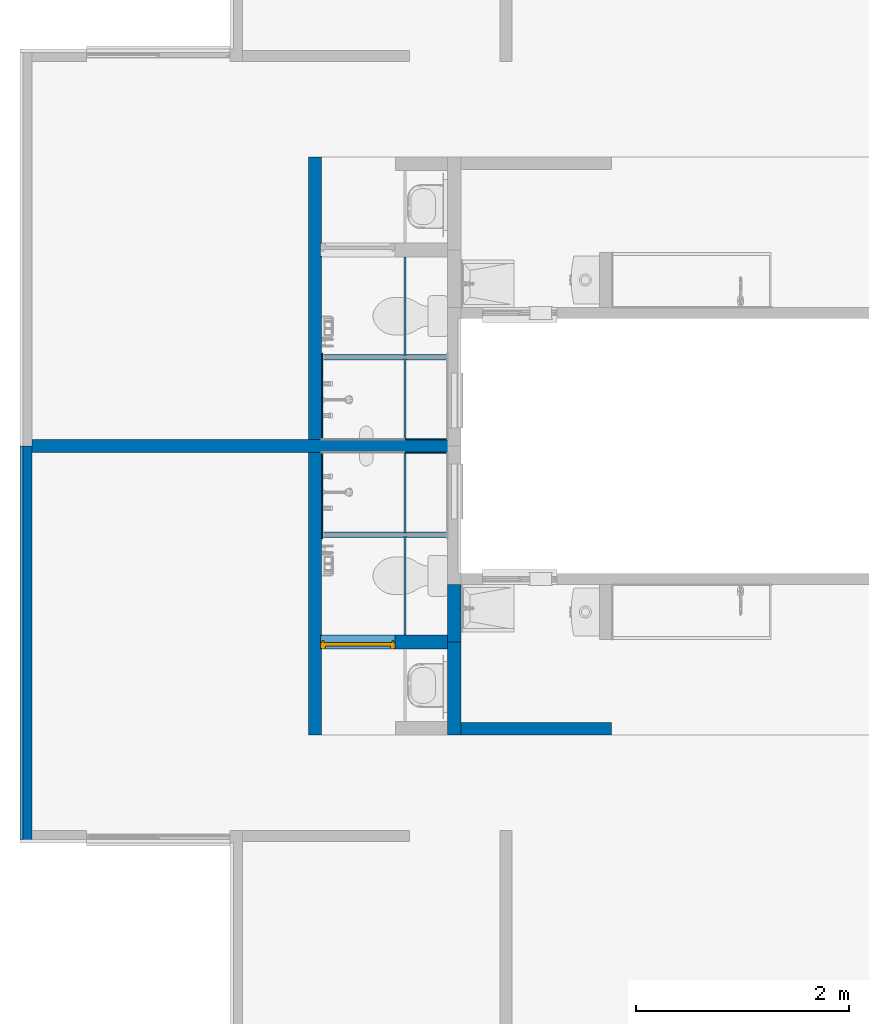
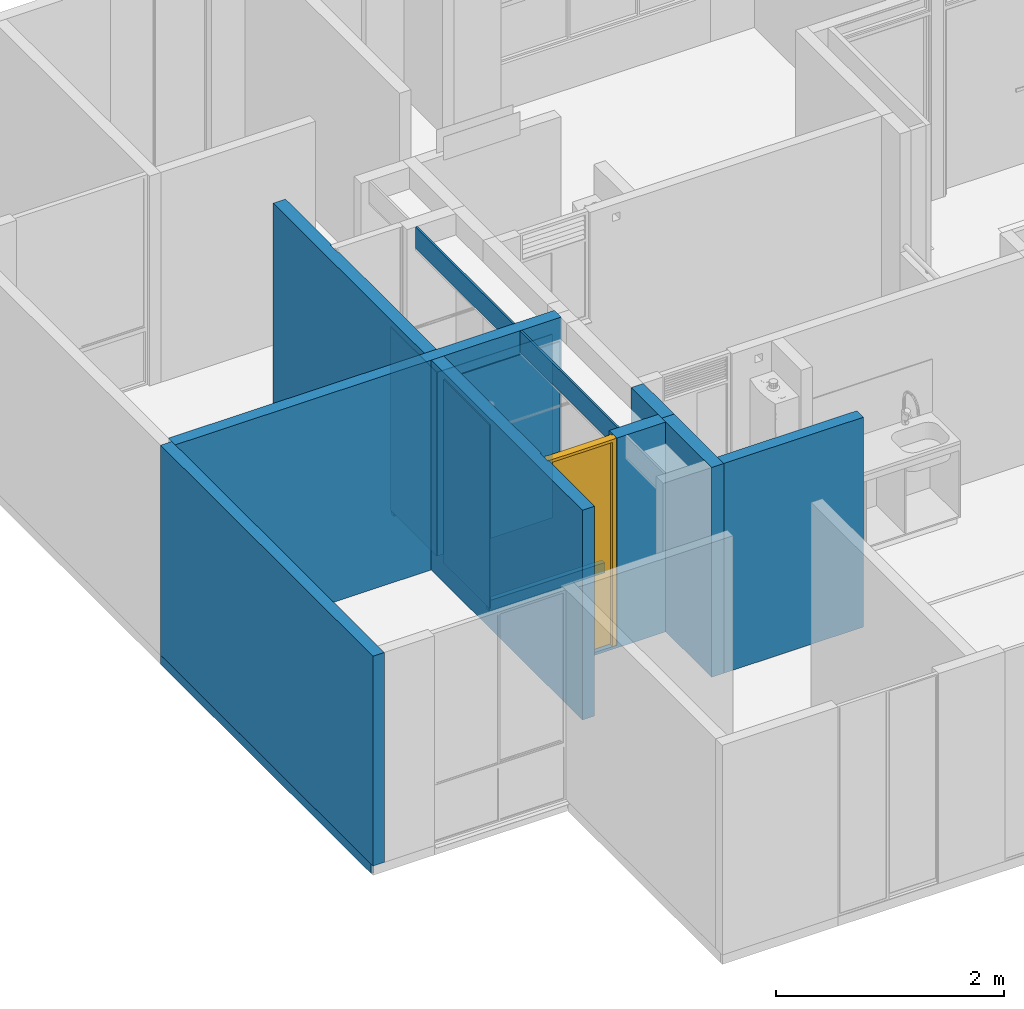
# One storey, part 7 of 48: 17 walls, 1 door, 3 openings.
"""IFC4 building model written with IfcOpenShell, lengths in metres."""

from ifc_helpers import new_model, entity, si_unit, converted_unit, derived_unit, direction, frame, origin, place, context, subcontext, project, spatial, indexed_curve, outline, extrude, polygons, source, transform, mapped, material, constituent, constituent_set, type_object, type_shapes, element, fill, save


model = new_model("IFC4")

# Units and contexts
model_context = context("Model", 3, precision=1e-05, world=origin(), true_north=direction((6.123031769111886e-17, 1.0)))
body_context = subcontext(model_context, "Body", "Model", "MODEL_VIEW")
ifc_project = project(units=[si_unit("LENGTHUNIT", "METRE"), si_unit("AREAUNIT", "SQUARE_METRE"), si_unit("VOLUMEUNIT", "CUBIC_METRE"), converted_unit("PLANEANGLEUNIT", "DEGREE", entity("IfcRatioMeasure", 0.017453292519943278), si_unit("PLANEANGLEUNIT", "RADIAN"), dimensions=[0, 0, 0, 0, 0, 0, 0]), si_unit("MASSUNIT", "GRAM", prefix="KILO"), derived_unit("MASSDENSITYUNIT", [(si_unit("MASSUNIT", "GRAM", prefix="KILO"), 1), (si_unit("LENGTHUNIT", "METRE"), -3)]), derived_unit("IONCONCENTRATIONUNIT", [(si_unit("MASSUNIT", "GRAM", prefix="KILO"), 1), (si_unit("LENGTHUNIT", "METRE"), -3)]), derived_unit("MOMENTOFINERTIAUNIT", [(si_unit("LENGTHUNIT", "METRE"), 4)]), si_unit("TIMEUNIT", "SECOND"), si_unit("FREQUENCYUNIT", "HERTZ"), si_unit("THERMODYNAMICTEMPERATUREUNIT", "DEGREE_CELSIUS"), derived_unit("THERMALTRANSMITTANCEUNIT", [(si_unit("MASSUNIT", "GRAM", prefix="KILO"), 1), (si_unit("THERMODYNAMICTEMPERATUREUNIT", "KELVIN"), -1), (si_unit("TIMEUNIT", "SECOND"), -3)]), derived_unit("THERMALCONDUCTANCEUNIT", [(si_unit("MASSUNIT", "GRAM", prefix="KILO"), 1), (si_unit("THERMODYNAMICTEMPERATUREUNIT", "KELVIN"), -1), (si_unit("TIMEUNIT", "SECOND"), -3), (si_unit("LENGTHUNIT", "METRE"), 1)]), derived_unit("VOLUMETRICFLOWRATEUNIT", [(si_unit("LENGTHUNIT", "METRE"), 3), (si_unit("TIMEUNIT", "SECOND"), -1)]), derived_unit("MASSFLOWRATEUNIT", [(si_unit("MASSUNIT", "GRAM", prefix="KILO"), 1), (si_unit("TIMEUNIT", "SECOND"), -1)]), derived_unit("ROTATIONALFREQUENCYUNIT", [(si_unit("TIMEUNIT", "SECOND"), -1)]), si_unit("ELECTRICCURRENTUNIT", "AMPERE"), si_unit("ELECTRICVOLTAGEUNIT", "VOLT"), si_unit("POWERUNIT", "WATT"), si_unit("FORCEUNIT", "NEWTON", prefix="KILO"), si_unit("ILLUMINANCEUNIT", "LUX"), si_unit("LUMINOUSFLUXUNIT", "LUMEN"), si_unit("LUMINOUSINTENSITYUNIT", "CANDELA"), derived_unit("USERDEFINED", [(si_unit("MASSUNIT", "GRAM", prefix="KILO"), -1), (si_unit("LENGTHUNIT", "METRE"), -2), (si_unit("TIMEUNIT", "SECOND"), 3), (si_unit("LUMINOUSFLUXUNIT", "LUMEN"), 1)]), derived_unit("USERDEFINED", [(si_unit("MASSUNIT", "GRAM", prefix="KILO"), 1), (si_unit("TIMEUNIT", "SECOND"), -3), (si_unit("LENGTHUNIT", "METRE"), 3), (si_unit("ELECTRICCURRENTUNIT", "AMPERE"), -2)]), derived_unit("SOUNDPOWERUNIT", [(si_unit("MASSUNIT", "GRAM", prefix="KILO"), 1), (si_unit("TIMEUNIT", "SECOND"), -3), (si_unit("LENGTHUNIT", "METRE"), 2)]), derived_unit("SOUNDPRESSUREUNIT", [(si_unit("MASSUNIT", "GRAM", prefix="KILO"), 1), (si_unit("LENGTHUNIT", "METRE"), -1), (si_unit("TIMEUNIT", "SECOND"), -2)]), derived_unit("LINEARVELOCITYUNIT", [(si_unit("LENGTHUNIT", "METRE"), 1), (si_unit("TIMEUNIT", "SECOND"), -1)]), si_unit("PRESSUREUNIT", "PASCAL"), derived_unit("USERDEFINED", [(si_unit("MASSUNIT", "GRAM", prefix="KILO"), 1), (si_unit("LENGTHUNIT", "METRE"), -2), (si_unit("TIMEUNIT", "SECOND"), -2)]), derived_unit("LINEARFORCEUNIT", [(si_unit("MASSUNIT", "GRAM", prefix="KILO"), 1), (si_unit("TIMEUNIT", "SECOND"), -2)]), derived_unit("PLANARFORCEUNIT", [(si_unit("MASSUNIT", "GRAM", prefix="KILO"), 1), (si_unit("LENGTHUNIT", "METRE"), -1), (si_unit("TIMEUNIT", "SECOND"), -2)]), derived_unit("SPECIFICHEATCAPACITYUNIT", [(si_unit("THERMODYNAMICTEMPERATUREUNIT", "KELVIN"), -1), (si_unit("LENGTHUNIT", "METRE"), 2), (si_unit("TIMEUNIT", "SECOND"), -2)]), derived_unit("HEATINGVALUEUNIT", [(si_unit("LENGTHUNIT", "METRE"), 2), (si_unit("TIMEUNIT", "SECOND"), -2)]), derived_unit("VAPORPERMEABILITYUNIT", [(si_unit("LENGTHUNIT", "METRE"), -1), (si_unit("TIMEUNIT", "SECOND"), 1)]), derived_unit("DYNAMICVISCOSITYUNIT", [(si_unit("MASSUNIT", "GRAM", prefix="KILO"), 1), (si_unit("TIMEUNIT", "SECOND"), -1), (si_unit("LENGTHUNIT", "METRE"), -1)]), derived_unit("THERMALEXPANSIONCOEFFICIENTUNIT", [(si_unit("THERMODYNAMICTEMPERATUREUNIT", "KELVIN"), -1)]), derived_unit("MODULUSOFELASTICITYUNIT", [(si_unit("MASSUNIT", "GRAM", prefix="KILO"), 1), (si_unit("LENGTHUNIT", "METRE"), -1), (si_unit("TIMEUNIT", "SECOND"), -2)]), derived_unit("ISOTHERMALMOISTURECAPACITYUNIT", [(si_unit("LENGTHUNIT", "METRE"), 3), (si_unit("MASSUNIT", "GRAM", prefix="KILO"), -1)]), derived_unit("MOISTUREDIFFUSIVITYUNIT", [(si_unit("TIMEUNIT", "SECOND"), -1), (si_unit("LENGTHUNIT", "METRE"), 2)])], contexts=[model_context])

# Site, building, storey
site_placement = place(None, origin())
site = spatial("IfcSite", under=ifc_project, at=site_placement, Name="Default", CompositionType="ELEMENT")
building_placement = place(site_placement, origin())
building = spatial("IfcBuilding", under=site, at=building_placement, CompositionType="ELEMENT")
storey_placement = place(building_placement, frame((0.0, 0.0, 9.40000000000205)))
storey = spatial("IfcBuildingStorey", under=building, at=storey_placement, Name="Nivel 5", CompositionType="ELEMENT", Elevation=9.40000000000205)

# Walls
ifc_material_1 = material(Name="Concreto (Aire)", Category="Materials")
wall_type_1 = type_object("IfcWallType", Name="Basic Wall:B2010 - 0.12m - Muro interior en concreto", PredefinedType="STANDARD")
wall_1_placement = place(storey_placement, frame((0.057499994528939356, -6.425000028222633, 0.0)))
element("IfcWall", 1, at=wall_1_placement, inside=storey, type_object=wall_type_1, material=ifc_material_1, Name="Basic Wall:B2010 - 0.12m - Muro interior en concreto", ObjectType="Basic Wall:B2010 - 0.12m - Muro interior en concreto", PredefinedType="NOTDEFINED", context=body_context, shape_type="SweptSolid", body=[
    extrude(outline(indexed_curve([(3.915, 0.06000000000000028), (-2.183027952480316e-18, 0.060000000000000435), (2.183027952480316e-18, -0.060000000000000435), (3.915, -0.06000000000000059), (3.915, 0.06000000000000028)], self_intersect=False)), origin(), (0.0, 0.0, 1.0), 2.2500000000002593),
])
ifc_material_2 = material(Name="Ladrillo claro (Aire)", Category="Materials")
wall_type_2 = type_object("IfcWallType", Name="Basic Wall:B2010 - 0.115m - Muro exterior en mampostería - Ladrillo", PredefinedType="STANDARD")
wall_2_placement = place(storey_placement, frame((0.0, -10.15500002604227, 0.0), z_axis=(0.0, 0.0, 1.0), x_axis=(0.0, 1.0, 0.0)))
element("IfcWall", 2, at=wall_2_placement, inside=storey, type_object=wall_type_2, material=ifc_material_2, Name="Basic Wall:B2010 - 0.115m - Muro exterior en mampostería - Ladrillo", ObjectType="Basic Wall:B2010 - 0.115m - Muro exterior en mampostería - Ladrillo", PredefinedType="NOTDEFINED", context=body_context, shape_type="SweptSolid", body=[
    extrude(outline(indexed_curve([(3.7299999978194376, 0.0575), (-4.594741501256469e-16, 0.0575), (4.594741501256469e-16, -0.0575), (3.7299999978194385, -0.0575), (3.7299999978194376, 0.0575)], self_intersect=False)), origin(), (0.0, 0.0, 1.0), 2.25000000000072),
])
wall_type_3 = type_object("IfcWallType", Name="Basic Wall:B2010 - 0.115m - Muro interior en mampostería - Ladrillo", PredefinedType="STANDARD")
wall_3_placement = place(storey_placement, frame((4.087499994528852, -9.082499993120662, 0.0)))
element("IfcWall", 3, at=wall_3_placement, inside=storey, type_object=wall_type_3, material=ifc_material_2, Name="Basic Wall:B2010 - 0.115m - Muro interior en mampostería - Ladrillo", ObjectType="Basic Wall:B2010 - 0.115m - Muro interior en mampostería - Ladrillo", PredefinedType="NOTDEFINED", context=body_context, shape_type="SweptSolid", body=[
    extrude(outline(indexed_curve([(1.414999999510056, 0.05749999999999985), (-1.7283953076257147e-16, 0.057499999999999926), (1.7283953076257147e-16, -0.057499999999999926), (1.4149999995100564, -0.0575), (1.414999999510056, 0.05749999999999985)], self_intersect=False)), origin(), (0.0, 0.0, 1.0), 2.2499999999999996),
])

# Wall, opening
ifc_material_3 = material(Name="Pañete", Category="Materials")
ifc_constituent_1 = constituent(ifc_material_3, Name="Pañete", Category="Materials")
ifc_constituent_2 = constituent(ifc_material_2, Name="Ladrillo claro (Aire)", Category="Materials")
ifc_constituent_set_1 = constituent_set(constituents=[ifc_constituent_1, ifc_constituent_2], Name="Basic Wall:B2010 - 0.115m - Muro interior en mampostería - Ladrillo + Pañete")
wall_type_4 = type_object("IfcWallType", Name="Basic Wall:B2010 - 0.115m - Muro interior en mampostería - Ladrillo + Pañete", PredefinedType="STANDARD", material=ifc_constituent_set_1)
wall_4_placement = place(storey_placement, frame((2.7150010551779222, -3.7100000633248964, 0.0), z_axis=(0.0, 0.0, 1.0), x_axis=(0.0, -1.0, 0.0)))
wall_4 = element("IfcWall", 4, at=wall_4_placement, inside=storey, type_object=wall_type_4, material=ifc_constituent_set_1, Name="Basic Wall:B2010 - 0.115m - Muro interior en mampostería - Ladrillo + Pañete", ObjectType="Basic Wall:B2010 - 0.115m - Muro interior en mampostería - Ladrillo + Pañete", PredefinedType="NOTDEFINED", context=body_context, shape_type="SweptSolid", body=[
    extrude(outline(indexed_curve([(-1.1325000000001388, -1.0999999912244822), (1.1174999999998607, -1.0999999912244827), (1.1175000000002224, -0.294999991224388), (-1.1024999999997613, -0.29499999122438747), (-1.1024999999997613, -0.15999999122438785), (1.1174999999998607, -0.1599999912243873), (1.1174999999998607, 1.5549999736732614), (-1.1325000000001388, 1.5549999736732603), (-1.1325000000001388, -1.0999999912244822)], self_intersect=False)), frame((1.0999999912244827, 0.0524999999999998, 1.13250000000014), z_axis=(0.0, 1.0, 0.0), x_axis=(0.0, 0.0, 1.0)), (0.0, 0.0, 1.0), 0.009999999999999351),
    extrude(outline(indexed_curve([(-0.05750000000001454, -1.3274999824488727), (0.05749999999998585, -1.3274999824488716), (0.05750000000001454, 1.327499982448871), (-0.057499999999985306, 1.3274999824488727), (-0.05750000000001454, -1.3274999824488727)], self_intersect=False)), frame((1.3274999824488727, -0.005000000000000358, 0.0), z_axis=(0.0, 0.0, 1.0), x_axis=(0.0, 1.0, 0.0)), (0.0, 0.0, 1.0), 2.2499999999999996),
])
opening_1_placement = place(wall_4_placement, origin())
element("IfcOpeningElement", 5, at=opening_1_placement, cuts=wall_4, Name="Basic Wall:B2010 - 0.115m - Muro interior en mampostería - Ladrillo + Pañete", PredefinedType="OPENING", context=body_context, shape_type="SweptSolid", body=[
    extrude(outline(indexed_curve([(-0.06749999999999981, -1.1099999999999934), (0.06750000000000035, -1.1099999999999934), (0.06750000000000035, 1.1099999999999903), (-0.06749999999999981, 1.1099999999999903), (-0.06749999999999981, -1.1099999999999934)], self_intersect=False)), frame((0.8725000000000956, 0.05249999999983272, 1.1400000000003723), z_axis=(0.0, 1.0, 0.0), x_axis=(-1.0, 0.0, 0.0)), (0.0, 0.0, 1.0), 0.7000000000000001),
])

wall_5_placement = place(storey_placement, frame((2.715001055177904, -9.139999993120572, 0.0), z_axis=(0.0, 0.0, 1.0), x_axis=(0.0, 1.0, 0.0)))
wall_5 = element("IfcWall", 6, at=wall_5_placement, inside=storey, type_object=wall_type_4, material=ifc_constituent_set_1, Name="Basic Wall:B2010 - 0.115m - Muro interior en mampostería - Ladrillo + Pañete", ObjectType="Basic Wall:B2010 - 0.115m - Muro interior en mampostería - Ladrillo + Pañete", PredefinedType="NOTDEFINED", context=body_context, shape_type="SweptSolid", body=[
    extrude(outline(indexed_curve([(-1.1325000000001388, -1.5549999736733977), (1.1174999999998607, -1.5549999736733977), (1.1175000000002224, 0.1599999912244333), (-1.1024999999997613, 0.15999999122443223), (-1.1024999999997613, 0.29499999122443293), (1.1174999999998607, 0.2949999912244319), (1.1174999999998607, 1.0999999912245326), (-1.1325000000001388, 1.0999999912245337), (-1.1325000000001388, -1.5549999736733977)], self_intersect=False)), frame((1.0999999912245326, -0.05249999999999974, 1.13250000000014), z_axis=(0.0, -1.0, 0.0), x_axis=(0.0, 0.0, 1.0)), (0.0, 0.0, 1.0), 0.009999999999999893),
    extrude(outline(indexed_curve([(-0.05750000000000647, -1.3274999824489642), (0.057499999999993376, -1.3274999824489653), (0.05750000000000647, 1.3274999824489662), (-0.057499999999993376, 1.3274999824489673), (-0.05750000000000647, -1.3274999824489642)], self_intersect=False)), frame((1.3274999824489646, 0.004999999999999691, 0.0), z_axis=(0.0, 0.0, 1.0), x_axis=(0.0, -1.0, 0.0)), (0.0, 0.0, 1.0), 2.2499999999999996),
])
opening_2_placement = place(wall_5_placement, origin())
element("IfcOpeningElement", 7, at=opening_2_placement, cuts=wall_5, Name="Basic Wall:B2010 - 0.115m - Muro interior en mampostería - Ladrillo + Pañete", PredefinedType="OPENING", context=body_context, shape_type="SweptSolid", body=[
    extrude(outline(indexed_curve([(-0.06749999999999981, -1.1099999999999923), (0.06749999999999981, -1.1099999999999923), (0.06749999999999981, 1.1099999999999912), (-0.06749999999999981, 1.1099999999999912), (-0.06749999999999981, -1.1099999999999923)], self_intersect=False)), frame((0.8725000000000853, -0.7524999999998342, 1.14000000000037), z_axis=(0.0, 1.0, 0.0), x_axis=(1.0, 0.0, 0.0)), (0.0, 0.0, 1.0), 0.7000000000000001),
])

# Wall, opening, door
ifc_constituent_3 = constituent(ifc_material_3, Name="Pañete", Category="Materials")
ifc_material_4 = material(Name="LADRILLO CLARO", Category="Materials")
ifc_constituent_4 = constituent(ifc_material_4, Name="LADRILLO CLARO", Category="Materials")
ifc_constituent_5 = constituent(ifc_material_3, Name="Pañete (2)", Category="Materials")
ifc_constituent_set_2 = constituent_set(constituents=[ifc_constituent_3, ifc_constituent_4, ifc_constituent_5], Name="Basic Wall:B2010 - 0.115m - MI  mampostería no estructural - Pañete + Ladrillo + Pañete")
wall_type_5 = type_object("IfcWallType", Name="Basic Wall:B2010 - 0.115m - MI  mampostería no estructural - Pañete + Ladrillo + Pañete", PredefinedType="STANDARD", material=ifc_constituent_set_2)
wall_6_placement = place(storey_placement, frame((3.9624999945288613, -8.26749999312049, 0.0), z_axis=(0.0, 0.0, 1.0), x_axis=(-1.0, 0.0, 0.0)))
wall_6 = element("IfcWall", 8, at=wall_6_placement, inside=storey, type_object=wall_type_5, material=ifc_constituent_set_2, Name="Basic Wall:B2010 - 0.115m - MI  mampostería no estructural - Pañete + Ladrillo + Pañete", ObjectType="Basic Wall:B2010 - 0.115m - MI  mampostería no estructural - Pañete + Ladrillo + Pañete", PredefinedType="NOTDEFINED", context=body_context, shape_type="SweptSolid", body=[
    extrude(outline(indexed_curve([(-0.7600000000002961, -0.6249996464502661), (-0.7299999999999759, -0.6249996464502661), (-0.7299999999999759, 0.06500035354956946), (1.4900000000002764, 0.06500035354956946), (1.4900000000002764, 0.559999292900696), (-0.7600000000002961, 0.5599992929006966), (-0.7600000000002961, -0.6249996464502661)], self_intersect=False)), frame((0.5599992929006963, -0.057499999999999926, 0.760000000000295), z_axis=(0.0, -1.0, 0.0), x_axis=(0.0, 0.0, 1.0)), (0.0, 0.0, 1.0), 0.009999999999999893),
    extrude(outline(indexed_curve([(-1.1325000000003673, -0.6649994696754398), (-1.102500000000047, -0.6649994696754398), (-1.102500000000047, 0.02500053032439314), (1.117500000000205, 0.02500053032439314), (1.117500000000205, 0.10999946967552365), (1.117500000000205, 0.12999946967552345), (1.117500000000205, 0.5199994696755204), (-1.1325000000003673, 0.5199994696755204), (-1.1325000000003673, -0.6649994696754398)], self_intersect=False)), frame((0.5199994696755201, 0.06749999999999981, 1.1325000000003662), z_axis=(0.0, -1.0, 0.0), x_axis=(0.0, 0.0, 1.0)), (0.0, 0.0, 1.0), 0.009999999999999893),
    extrude(outline(indexed_curve([(-0.7600000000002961, -0.6316663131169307), (-0.7299999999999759, -0.6316663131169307), (-0.7299999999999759, 0.06833368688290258), (1.4900000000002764, 0.06833368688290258), (1.4900000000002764, 0.5633326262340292), (-0.7600000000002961, 0.5633326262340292), (-0.7600000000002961, -0.6316663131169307)], self_intersect=False)), frame((0.5633326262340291, 0.057499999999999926, 0.760000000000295), z_axis=(0.0, -1.0, 0.0), x_axis=(0.0, 0.0, 1.0)), (0.0, 0.0, 1.0), 0.11499999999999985),
])
opening_3_placement = place(wall_6_placement, frame((1.1949989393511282, 0.06749999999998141, 0.029999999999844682)))
opening_3 = element("IfcOpeningElement", 9, at=opening_3_placement, cuts=wall_6, Name="C1030 - Puerta batiente - Madera+Aluminio:C1030 - 0.70 x 2.22 - Puerta batiente - Madera+ Metal:1", PredefinedType="OPENING", context=body_context, shape_type="SweptSolid", body=[
    extrude(outline(indexed_curve([(1.438182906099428e-16, 0.7000000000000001), (1.438182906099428e-16, 0.0), (2.219999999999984, 0.0), (2.2199999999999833, 0.7000000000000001), (1.438182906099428e-16, 0.7000000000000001)], self_intersect=False)), frame((0.0, 0.0, 0.0), z_axis=(0.0, -1.0, 0.0), x_axis=(0.0, 0.0, 1.0)), (0.0, 0.0, 1.0), 0.13499999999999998),
])
ifc_material_5 = material(Name="<Unnamed>")
door_type = type_object("IfcDoorType", Name="C1030 - Puerta batiente - Madera+Aluminio:C1030 - 0.70 x 2.22 - Puerta batiente - Madera+ Metal", OperationType="SINGLE_SWING_LEFT", PredefinedType="DOOR", material=ifc_material_5)
shared_shape = source(origin(), body_context, "Body", "Tessellation", [
    polygons([(0.6699999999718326, 0.06499999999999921, 0.009880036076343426), (0.6699999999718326, 0.0324999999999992, 0.009880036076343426), (0.030000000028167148, 0.0324999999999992, 0.009880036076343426), (0.030000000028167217, 0.06499999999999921, 0.009880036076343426), (0.6699999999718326, 0.06499999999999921, 2.2050000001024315), (0.6699999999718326, 0.0324999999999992, 2.2050000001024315), (0.030000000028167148, 0.0324999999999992, 2.2050000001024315), (0.030000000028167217, 0.06499999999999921, 2.2050000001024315)], [[[1, 2, 3, 4]], [[5, 6, 2, 1]], [[6, 7, 3, 2]], [[7, 8, 4, 3]], [[8, 5, 1, 4]], [[5, 8, 7, 6]]], closed=True),
    polygons([(0.6849999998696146, 0.0649999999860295, 0.0), (0.7, 0.0649999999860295, 0.0), (0.7, 0.0074999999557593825, 0.0), (0.6849999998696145, 0.007499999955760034, 0.0), (0.6849999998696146, -5.075939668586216e-17, 0.0), (0.6549999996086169, -1.6919798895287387e-17, 0.0), (0.6549999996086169, 0.04000000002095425, 0.0), (0.6699999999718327, 0.04000000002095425, 0.0), (0.6699999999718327, 0.07999999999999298, 0.0), (0.6849999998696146, 0.07999999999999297, 0.0), (0.7, 0.0074999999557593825, 2.2199999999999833), (0.6849999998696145, 0.007499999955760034, 2.2199999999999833), (0.6849999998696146, 0.0649999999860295, 2.2199999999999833), (0.7, 0.0649999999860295, 2.2199999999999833), (0.015000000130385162, 0.06499999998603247, 0.0), (0.015000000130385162, 0.07999999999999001, 0.0), (0.030000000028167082, 0.07999999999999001, 0.0), (0.030000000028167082, 0.04000000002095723, 0.0), (0.04500000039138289, 0.04000000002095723, 0.0), (0.04500000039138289, 0.0, 0.0), (0.01500000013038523, 0.0, 0.0), (0.015000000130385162, 0.007499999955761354, 0.0), (0.0, 0.007499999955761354, 0.0), (0.0, 0.06499999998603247, 0.0), (0.0, 0.06499999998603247, 2.2199999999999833), (0.015000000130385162, 0.06499999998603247, 2.2199999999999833), (0.015000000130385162, 0.007499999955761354, 2.2199999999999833), (0.0, 0.007499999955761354, 2.2199999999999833), (0.04500000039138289, 0.04000000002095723, 2.2050000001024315), (0.04500000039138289, 0.03250000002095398, 2.2050000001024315), (0.04500000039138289, 0.03250000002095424, 2.189999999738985), (0.04500000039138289, 0.0, 2.189999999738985), (0.6549999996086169, -1.6919798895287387e-17, 2.189999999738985), (0.6549999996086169, 0.032500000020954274, 2.189999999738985), (0.6549999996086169, 0.03250000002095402, 2.2050000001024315), (0.6549999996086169, 0.04000000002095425, 2.2050000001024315), (0.030000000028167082, 0.07999999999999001, 2.2199999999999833), (0.030000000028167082, 0.07249999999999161, 2.2199999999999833), (0.030000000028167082, 0.07249999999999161, 2.2050000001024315), (0.030000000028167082, 0.04000000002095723, 2.2050000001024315), (0.6699999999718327, 0.04000000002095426, 2.2050000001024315), (0.6699999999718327, 0.07249999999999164, 2.2050000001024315), (0.6699999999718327, 0.07249999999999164, 2.2199999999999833), (0.6699999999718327, 0.07999999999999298, 2.2199999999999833), (0.015000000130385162, 0.07999999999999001, 2.2199999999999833), (0.6849999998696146, -5.075939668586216e-17, 2.2199999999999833), (0.01500000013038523, 0.0, 2.2199999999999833), (0.6849999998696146, 0.07999999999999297, 2.2199999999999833)], [[[1, 2, 3, 4, 5, 6, 7, 8, 9, 10]], [[11, 12, 4, 3]], [[13, 14, 2, 1]], [[15, 16, 17, 18, 19, 20, 21, 22, 23, 24]], [[25, 26, 15, 24]], [[27, 28, 23, 22]], [[20, 19, 29, 30, 31, 32]], [[7, 6, 33, 34, 35, 36]], [[18, 17, 37, 38, 39, 40]], [[9, 8, 41, 42, 43, 44]], [[28, 25, 24, 23]], [[14, 11, 3, 2]], [[26, 45, 16, 15]], [[45, 37, 17, 16]], [[19, 18, 40, 29]], [[21, 20, 32, 33, 6, 5, 46, 47]], [[47, 27, 22, 21]], [[12, 46, 5, 4]], [[48, 13, 1, 10]], [[26, 25, 28, 27, 47, 46, 12, 11, 14, 13, 48, 44, 43, 38, 37, 45]], [[39, 42, 41, 36, 35, 30, 29, 40]], [[33, 32, 31, 34]], [[8, 7, 36, 41]], [[44, 48, 10, 9]], [[34, 31, 30, 35]], [[42, 39, 38, 43]]], closed=True),
])
type_shapes(door_type, [shared_shape])
door_placement = place(opening_3_placement, frame((0.0, 0.0, 0.0), z_axis=(0.0, 0.0, 1.0), x_axis=(-1.0, 0.0, 0.0)))
door = element("IfcDoor", 10, at=door_placement, inside=storey, type_object=door_type, material=ifc_material_5, Name="C1030 - Puerta batiente - Madera+Aluminio:C1030 - 0.70 x 2.22 - Puerta batiente - Madera+ Metal", ObjectType="C1030 - Puerta batiente - Madera+Aluminio:C1030 - 0.70 x 2.22 - Puerta batiente - Madera+ Metal", OperationType="NOTDEFINED", OverallHeight=2.2199999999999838, OverallWidth=0.7000000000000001, PredefinedType="DOOR", context=body_context, shape_type="MappedRepresentation", body=[
    mapped(shared_shape, transform((0.0, 0.0, 0.0), scale=1.0)),
])
fill(opening_3, door)

# Walls
ifc_material_6 = material(Name="Pañete, estuco y pintura", Category="Materials")
ifc_constituent_6 = constituent(ifc_material_6, Name="Pañete, estuco y pintura", Category="Materials")
ifc_constituent_7 = constituent(ifc_material_2, Name="Ladrillo claro (Aire)", Category="Materials")
ifc_constituent_set_3 = constituent_set(constituents=[ifc_constituent_6, ifc_constituent_7], Name="Basic Wall:B2010 - 0.115m - Muro interior en mampostería - Ladrillo + Pañete+ estuco+ pintura")
wall_type_6 = type_object("IfcWallType", Name="Basic Wall:B2010 - 0.115m - Muro interior en mampostería - Ladrillo + Pañete+ estuco+ pintura", PredefinedType="STANDARD", material=ifc_constituent_set_3)
wall_7_placement = place(storey_placement, frame((4.024999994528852, -9.13999999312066, 0.0), z_axis=(0.0, 0.0, 1.0), x_axis=(0.0, 1.0, 0.0)))
element("IfcWall", 11, at=wall_7_placement, inside=storey, type_object=wall_type_6, material=ifc_constituent_set_3, Name="Basic Wall:B2010 - 0.115m - Muro interior en mampostería - Ladrillo + Pañete+ estuco+ pintura", ObjectType="Basic Wall:B2010 - 0.115m - Muro interior en mampostería - Ladrillo + Pañete+ estuco+ pintura", PredefinedType="NOTDEFINED", context=body_context, shape_type="SweptSolid", body=[
    extrude(outline(indexed_curve([(-0.3591666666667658, -0.003333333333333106), (0.32083333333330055, -0.0033333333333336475), (0.44583333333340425, -0.003333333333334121), (0.4458333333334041, 0.006666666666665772), (-0.4266666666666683, 0.006666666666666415), (-0.42666666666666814, -0.0033333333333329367), (-0.3591666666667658, -0.003333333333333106)], self_intersect=False)), frame((0.44583333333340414, 0.059166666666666, 0.0), z_axis=(0.0, 0.0, 1.0), x_axis=(-1.0, 0.0, 0.0)), (0.0, 0.0, 1.0), 2.250000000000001),
    extrude(outline(indexed_curve([(-0.25700000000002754, -0.046000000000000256), (0.5005000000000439, -0.046000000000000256), (0.5005000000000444, 0.06900000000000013), (-0.372000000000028, 0.0690000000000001), (-0.37200000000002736, -0.045999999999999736), (-0.25700000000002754, -0.046000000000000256)], self_intersect=False)), frame((0.37200000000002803, -0.01650000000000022, 0.0)), (0.0, 0.0, 1.0), 2.250000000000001),
])
wall_8_placement = place(storey_placement, frame((4.024999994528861, -8.267499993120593, 0.0), z_axis=(0.0, 0.0, 1.0), x_axis=(0.0, 1.0, 0.0)))
element("IfcWall", 12, at=wall_8_placement, inside=storey, type_object=wall_type_6, material=ifc_constituent_set_3, Name="Basic Wall:B2010 - 0.115m - Muro interior en mampostería - Ladrillo + Pañete+ estuco+ pintura", ObjectType="Basic Wall:B2010 - 0.115m - Muro interior en mampostería - Ladrillo + Pañete+ estuco+ pintura", PredefinedType="NOTDEFINED", context=body_context, shape_type="SweptSolid", body=[
    extrude(outline(indexed_curve([(0.16280569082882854, -0.004000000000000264), (0.23030569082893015, -0.004000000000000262), (0.23030569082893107, 0.0059999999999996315), (-0.3117085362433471, 0.00599999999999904), (-0.31170853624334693, -0.004000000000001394), (0.16280569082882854, -0.004000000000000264)], self_intersect=False)), frame((0.23030569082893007, 0.058499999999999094, 0.0), z_axis=(0.0, 0.0, 1.0), x_axis=(-1.0, 0.0, 0.0)), (0.0, 0.0, 1.0), 2.250000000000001),
    extrude(outline(indexed_curve([(-0.12467143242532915, -0.03833333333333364), (-0.0906714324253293, -0.03833333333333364), (0.32484282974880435, -0.03833333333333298), (0.3248428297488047, 0.07666666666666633), (-0.21717139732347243, 0.07666666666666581), (-0.21717139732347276, -0.03833333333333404), (-0.12467143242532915, -0.03833333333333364)], self_intersect=False)), frame((0.2171713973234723, -0.024166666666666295, 0.0)), (0.0, 0.0, 1.0), 2.250000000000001),
])
ifc_material_7 = material(Name="Ceramica 0.25m x 0.35m", Category="Materials")
wall_type_7 = type_object("IfcWallType", Name="Basic Wall:C2010 - 0.25 x 0.35 - Enchape cerámico", PredefinedType="STANDARD")
wall_9_placement = place(storey_placement, frame((2.7825010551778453, -6.365000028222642, 0.029999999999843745), z_axis=(0.0, 0.0, 1.0), x_axis=(0.0, 1.0, 0.0)))
element("IfcWall", 13, at=wall_9_placement, inside=storey, type_object=wall_type_7, material=ifc_material_7, Name="Basic Wall:C2010 - 0.25 x 0.35 - Enchape cerámico", ObjectType="Basic Wall:C2010 - 0.25 x 0.35 - Enchape cerámico", PredefinedType="NOTDEFINED", context=body_context, shape_type="SweptSolid", body=[
    extrude(outline(indexed_curve([(0.8099999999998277, 0.00500000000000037), (-3.269267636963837e-17, 0.004999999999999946), (3.269267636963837e-17, -0.004999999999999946), (0.8099999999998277, -0.004999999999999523), (0.8099999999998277, 0.00500000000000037)], self_intersect=False)), origin(), (0.0, 0.0, 1.0), 1.9700000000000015),
])
wall_10_placement = place(storey_placement, frame((2.787501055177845, -6.360000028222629, 0.029999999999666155)))
element("IfcWall", 14, at=wall_10_placement, inside=storey, type_object=wall_type_7, material=ifc_material_7, Name="Basic Wall:C2010 - 0.25 x 0.35 - Enchape cerámico", ObjectType="Basic Wall:C2010 - 0.25 x 0.35 - Enchape cerámico", PredefinedType="NOTDEFINED", context=body_context, shape_type="SweptSolid", body=[
    extrude(outline(indexed_curve([(1.1649989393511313, 0.004999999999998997), (-2.3810892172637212e-17, 0.004999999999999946), (2.3810892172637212e-17, -0.004999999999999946), (1.1649989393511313, -0.005000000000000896), (1.1649989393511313, 0.004999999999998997)], self_intersect=False)), origin(), (0.0, 0.0, 1.0), 1.9700000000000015),
])
wall_11_placement = place(storey_placement, frame((2.782501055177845, -6.485000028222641, 0.029999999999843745), z_axis=(0.0, 0.0, 1.0), x_axis=(0.0, -1.0, 0.0)))
element("IfcWall", 15, at=wall_11_placement, inside=storey, type_object=wall_type_7, material=ifc_material_7, Name="Basic Wall:C2010 - 0.25 x 0.35 - Enchape cerámico", ObjectType="Basic Wall:C2010 - 0.25 x 0.35 - Enchape cerámico", PredefinedType="NOTDEFINED", context=body_context, shape_type="SweptSolid", body=[
    extrude(outline(indexed_curve([(0.8100000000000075, 0.004999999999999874), (4.468811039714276e-19, 0.004999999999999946), (-4.468811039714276e-19, -0.004999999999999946), (0.8100000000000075, -0.005000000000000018), (0.8100000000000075, 0.004999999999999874)], self_intersect=False)), origin(), (0.0, 0.0, 1.0), 1.9700000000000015),
])
wall_12_placement = place(storey_placement, frame((2.7875010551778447, -6.490000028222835, 0.029999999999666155)))
element("IfcWall", 16, at=wall_12_placement, inside=storey, type_object=wall_type_7, material=ifc_material_7, Name="Basic Wall:C2010 - 0.25 x 0.35 - Enchape cerámico", ObjectType="Basic Wall:C2010 - 0.25 x 0.35 - Enchape cerámico", PredefinedType="NOTDEFINED", context=body_context, shape_type="SweptSolid", body=[
    extrude(outline(indexed_curve([(1.1649989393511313, 0.004999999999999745), (-8.43490309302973e-18, 0.004999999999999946), (8.43490309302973e-18, -0.004999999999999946), (1.1649989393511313, -0.0050000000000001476), (1.1649989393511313, 0.004999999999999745)], self_intersect=False)), origin(), (0.0, 0.0, 1.0), 1.9700000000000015),
])
ifc_material_8 = material(Name="0 muro divisorio", Category="Materials")
wall_type_8 = type_object("IfcWallType", Name="Basic Wall:B2010 - 0.05m - Poyo para duchas - Concreto", PredefinedType="STANDARD")
wall_13_placement = place(storey_placement, frame((2.777501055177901, -5.590000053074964, 0.0)))
element("IfcWall", 17, at=wall_13_placement, inside=storey, type_object=wall_type_8, material=ifc_material_8, Name="Basic Wall:B2010 - 0.05m - Poyo para duchas - Concreto", ObjectType="Basic Wall:B2010 - 0.05m - Poyo para duchas - Concreto", PredefinedType="NOTDEFINED", context=body_context, shape_type="SweptSolid", body=[
    extrude(outline(indexed_curve([(1.1749989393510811, 0.02499999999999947), (7.46625923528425e-17, 0.02499999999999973), (-7.46625923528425e-17, -0.02499999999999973), (1.1749989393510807, -0.024999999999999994), (1.1749989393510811, 0.02499999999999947)], self_intersect=False)), origin(), (0.0, 0.0, 1.0), 0.11000000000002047),
])
wall_14_placement = place(storey_placement, frame((2.777501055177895, -7.260000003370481, 0.0)))
element("IfcWall", 18, at=wall_14_placement, inside=storey, type_object=wall_type_8, material=ifc_material_8, Name="Basic Wall:B2010 - 0.05m - Poyo para duchas - Concreto", ObjectType="Basic Wall:B2010 - 0.05m - Poyo para duchas - Concreto", PredefinedType="NOTDEFINED", context=body_context, shape_type="SweptSolid", body=[
    extrude(outline(indexed_curve([(1.1749989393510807, 0.025000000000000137), (-7.772420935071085e-17, 0.02499999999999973), (7.772420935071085e-17, -0.02499999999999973), (1.1749989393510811, -0.024999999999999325), (1.1749989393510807, 0.025000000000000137)], self_intersect=False)), origin(), (0.0, 0.0, 1.0), 0.11000000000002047),
])
ifc_material_9 = material(Name="Plasterboard", Category="Materials")
wall_type_9 = type_object("IfcWallType", Name="Basic Wall:C1070 - 0.02m - Plafón - Drywall", PredefinedType="STANDARD")
wall_15_placement = place(storey_placement, frame((3.5624999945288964, -6.365000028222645, 2.019999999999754), z_axis=(0.0, 0.0, 1.0), x_axis=(0.0, 1.0, 0.0)))
element("IfcWall", 19, at=wall_15_placement, inside=storey, type_object=wall_type_9, material=ifc_material_9, Name="Basic Wall:C1070 - 0.02m - Plafón - Drywall", ObjectType="Basic Wall:C1070 - 0.02m - Plafón - Drywall", PredefinedType="NOTDEFINED", context=body_context, shape_type="SweptSolid", body=[
    extrude(outline(indexed_curve([(1.71499996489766, 0.00999999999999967), (7.706224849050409e-17, 0.009999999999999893), (-7.706224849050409e-17, -0.009999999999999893), (1.71499996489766, -0.010000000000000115), (1.71499996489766, 0.00999999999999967)], self_intersect=False)), origin(), (0.0, 0.0, 1.0), 0.23000000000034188),
])
wall_16_placement = place(storey_placement, frame((3.5624999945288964, -6.485000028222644, 2.019999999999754), z_axis=(0.0, 0.0, 1.0), x_axis=(0.0, -1.0, 0.0)))
element("IfcWall", 20, at=wall_16_placement, inside=storey, type_object=wall_type_9, material=ifc_material_9, Name="Basic Wall:C1070 - 0.02m - Plafón - Drywall", ObjectType="Basic Wall:C1070 - 0.02m - Plafón - Drywall", PredefinedType="NOTDEFINED", context=body_context, shape_type="SweptSolid", body=[
    extrude(outline(indexed_curve([(1.7149999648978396, 0.009999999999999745), (-1.4120029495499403e-16, 0.009999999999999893), (1.4120029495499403e-16, -0.009999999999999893), (1.71499996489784, -0.01000000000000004), (1.7149999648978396, 0.009999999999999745)], self_intersect=False)), origin(), (0.0, 0.0, 1.0), 0.23000000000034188),
])
wall_type_10 = type_object("IfcWallType", Name="Basic Wall:B2010 - 0.03m - ME enchape  no estructural - Ladrillo", PredefinedType="STANDARD")
wall_17_placement = place(storey_placement, frame((-0.04249999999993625, -10.125000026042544, -0.10000000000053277), z_axis=(0.0, 0.0, 1.0), x_axis=(0.0, 1.0, 0.0)))
element("IfcWall", 21, at=wall_17_placement, inside=storey, type_object=wall_type_10, material=ifc_material_4, Name="Basic Wall:B2010 - 0.03m - ME enchape  no estructural - Ladrillo", ObjectType="Basic Wall:B2010 - 0.03m - ME enchape  no estructural - Ladrillo", PredefinedType="NOTDEFINED", context=body_context, shape_type="SweptSolid", body=[
    extrude(outline(indexed_curve([(3.699999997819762, 0.015000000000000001), (2.6129816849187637e-17, 0.015), (-2.6129816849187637e-17, -0.015), (3.699999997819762, -0.015000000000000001), (3.699999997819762, 0.015000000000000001)], self_intersect=False)), origin(), (0.0, 0.0, 1.0), 0.09999999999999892),
])

save(model, "model.ifc")
